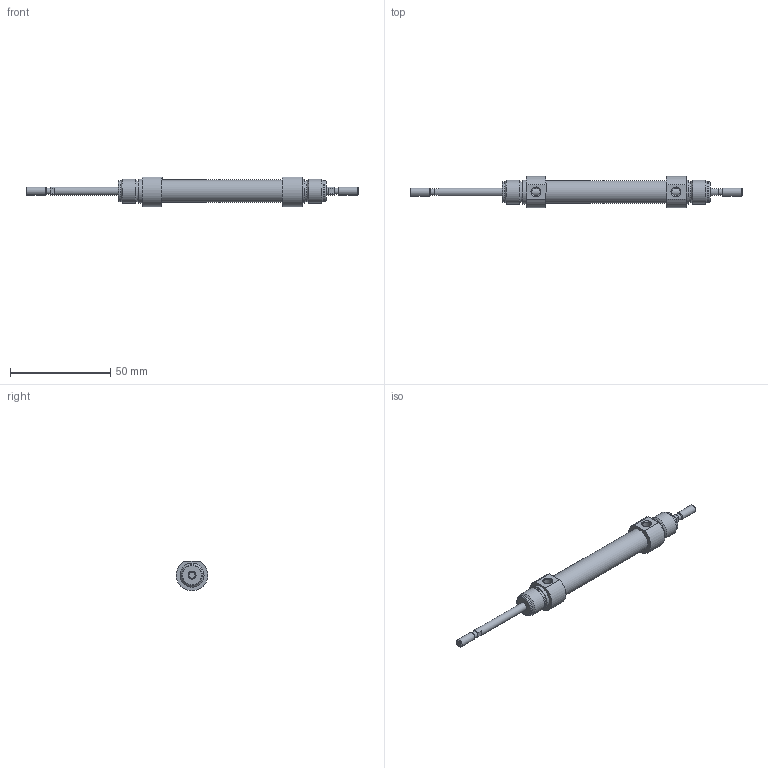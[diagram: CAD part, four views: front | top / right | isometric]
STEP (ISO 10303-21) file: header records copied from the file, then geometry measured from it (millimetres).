
FILE_DESCRIPTION( ( 'STEP AP203' ), '1' );
FILE_NAME( '//expscmdclustefs.cadenas.external/client_exchange/iodir/jobs/output/wkb68274371_no0/STEP/M101-010-0030-M__0__2_03.stp', ' ', ( ' ' ), ( ' ' ), 'PSStep 15.0.47', 'PARTsolutions', ' ' );
FILE_SCHEMA( ( 'CONFIG_CONTROL_DESIGN' ) );
Length unit declared in the file: millimetre
Products named in the file (3): M101-010-0030-M [0]; HI_M101-010-0030-M-[0]-z; HI_M101-010-0030-M-[0]-k
Assembly tree (2 placements, depth 2):
  M101-010-0030-M [0]
    HI_M101-010-0030-M-[0]-z
    HI_M101-010-0030-M-[0]-k
Bounding box: 166 x 15.77 x 14.87 mm (x, y, z)
Volume: 11016.3 mm3; surface area: 9040.2 mm2
Topology: 2 solids, 2 shells, 71 faces, 145 edges, 88 vertices
Faces by surface type: plane 32, cylinder 23, cone 14, torus 2
Full cylindrical faces by diameter (mm): 3.141 x2, 4 x6, 4.134 x2, 10 x2, 10.466 x4, 11.3 x1, 12 x4
Entity records: 1838 total; most frequent: CARTESIAN_POINT 358, DIRECTION 312, ORIENTED_EDGE 212, AXIS2_PLACEMENT_3D 140, EDGE_LOOP 120, EDGE_CURVE 106, FACE_OUTER_BOUND 94, VERTEX_POINT 82
